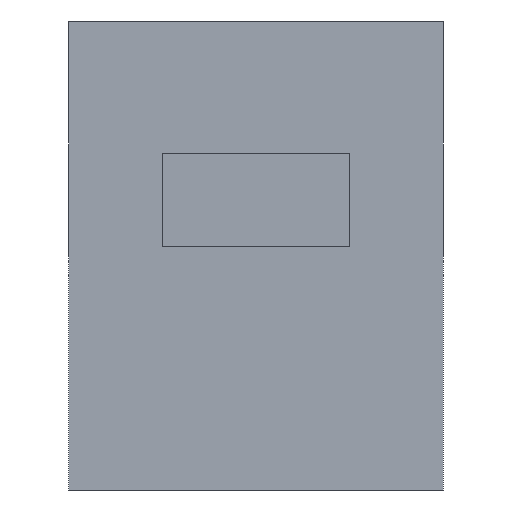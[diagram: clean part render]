
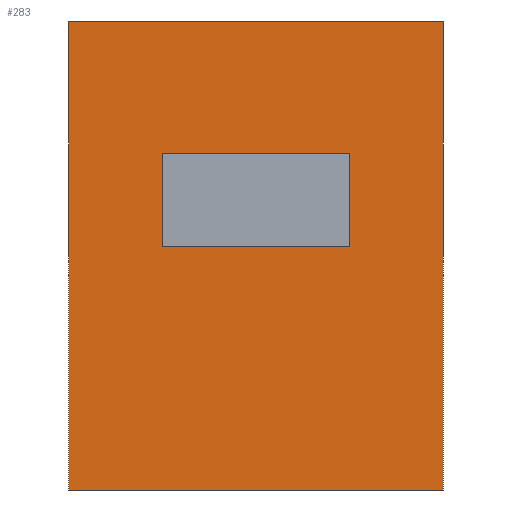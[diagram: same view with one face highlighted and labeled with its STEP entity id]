
A CAD part, front view. The second image highlights one B-rep face of the part: STEP entity #283.
In plain terms, the highlighted planar face has unit normal (0, -1, 0).
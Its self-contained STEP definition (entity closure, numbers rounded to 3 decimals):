
#20 = CARTESIAN_POINT ( 'NONE',  ( -5., -10., 5.5 ) ) ;
#52 = EDGE_CURVE ( 'NONE', #979, #78, #354, .T. ) ;
#78 = VERTEX_POINT ( 'NONE', #204 ) ;
#107 = LINE ( 'NONE', #20, #467 ) ;
#110 = ORIENTED_EDGE ( 'NONE', *, *, #829, .T. ) ;
#135 = DIRECTION ( 'NONE',  ( 1., 0., 0. ) ) ;
#147 = ORIENTED_EDGE ( 'NONE', *, *, #287, .F. ) ;
#174 = EDGE_CURVE ( 'NONE', #464, #682, #518, .T. ) ;
#183 = CARTESIAN_POINT ( 'NONE',  ( 5., -10., 0.5 ) ) ;
#189 = DIRECTION ( 'NONE',  ( 0., 0., -1. ) ) ;
#204 = CARTESIAN_POINT ( 'NONE',  ( 10., -10., -12.5 ) ) ;
#231 = CARTESIAN_POINT ( 'NONE',  ( -10., -10., -12.5 ) ) ;
#238 = DIRECTION ( 'NONE',  ( 0., 0., 1. ) ) ;
#264 = DIRECTION ( 'NONE',  ( 1., 0., 0. ) ) ;
#283 = ADVANCED_FACE ( 'NONE', ( #653, #749 ), #611, .F. ) ;
#287 = EDGE_CURVE ( 'NONE', #926, #787, #774, .T. ) ;
#300 = CARTESIAN_POINT ( 'NONE',  ( 10., -10., 12.5 ) ) ;
#314 = VECTOR ( 'NONE', #189, 1000. ) ;
#321 = EDGE_CURVE ( 'NONE', #682, #78, #432, .T. ) ;
#325 = CARTESIAN_POINT ( 'NONE',  ( -5., -10., 0.5 ) ) ;
#354 = LINE ( 'NONE', #231, #934 ) ;
#362 = DIRECTION ( 'NONE',  ( 0., 1., 0. ) ) ;
#389 = CARTESIAN_POINT ( 'NONE',  ( -10., -10., 12.5 ) ) ;
#393 = ORIENTED_EDGE ( 'NONE', *, *, #52, .T. ) ;
#394 = CARTESIAN_POINT ( 'NONE',  ( -10., -10., -12.5 ) ) ;
#432 = LINE ( 'NONE', #300, #314 ) ;
#459 = EDGE_CURVE ( 'NONE', #692, #835, #107, .T. ) ;
#460 = EDGE_LOOP ( 'NONE', ( #731, #654, #801, #147 ) ) ;
#464 = VERTEX_POINT ( 'NONE', #532 ) ;
#467 = VECTOR ( 'NONE', #922, 1000. ) ;
#476 = EDGE_CURVE ( 'NONE', #787, #692, #719, .T. ) ;
#491 = CARTESIAN_POINT ( 'NONE',  ( -10., -10., 12.5 ) ) ;
#509 = DIRECTION ( 'NONE',  ( -1., 0., 0. ) ) ;
#518 = LINE ( 'NONE', #389, #803 ) ;
#532 = CARTESIAN_POINT ( 'NONE',  ( -10., -10., 12.5 ) ) ;
#565 = EDGE_CURVE ( 'NONE', #835, #926, #945, .T. ) ;
#567 = VECTOR ( 'NONE', #583, 1000. ) ;
#577 = DIRECTION ( 'NONE',  ( 0., 0., -1. ) ) ;
#583 = DIRECTION ( 'NONE',  ( 0., 0., 1. ) ) ;
#607 = VECTOR ( 'NONE', #577, 1000. ) ;
#609 = CARTESIAN_POINT ( 'NONE',  ( -5., -10., 5.5 ) ) ;
#611 = PLANE ( 'NONE',  #680 ) ;
#625 = CARTESIAN_POINT ( 'NONE',  ( -5., -10., 5.5 ) ) ;
#653 = FACE_BOUND ( 'NONE', #460, .T. ) ;
#654 = ORIENTED_EDGE ( 'NONE', *, *, #459, .F. ) ;
#676 = CARTESIAN_POINT ( 'NONE',  ( -10., -10., 12.5 ) ) ;
#678 = EDGE_LOOP ( 'NONE', ( #393, #810, #826, #110 ) ) ;
#679 = CARTESIAN_POINT ( 'NONE',  ( 5., -10., 5.5 ) ) ;
#680 = AXIS2_PLACEMENT_3D ( 'NONE', #491, #362, #238 ) ;
#682 = VERTEX_POINT ( 'NONE', #885 ) ;
#692 = VERTEX_POINT ( 'NONE', #609 ) ;
#713 = VECTOR ( 'NONE', #509, 1000. ) ;
#719 = LINE ( 'NONE', #625, #713 ) ;
#731 = ORIENTED_EDGE ( 'NONE', *, *, #565, .F. ) ;
#749 = FACE_OUTER_BOUND ( 'NONE', #678, .T. ) ;
#759 = DIRECTION ( 'NONE',  ( 1., 0., 0. ) ) ;
#771 = LINE ( 'NONE', #676, #607 ) ;
#774 = LINE ( 'NONE', #679, #567 ) ;
#787 = VERTEX_POINT ( 'NONE', #862 ) ;
#801 = ORIENTED_EDGE ( 'NONE', *, *, #476, .F. ) ;
#803 = VECTOR ( 'NONE', #264, 1000. ) ;
#810 = ORIENTED_EDGE ( 'NONE', *, *, #321, .F. ) ;
#826 = ORIENTED_EDGE ( 'NONE', *, *, #174, .F. ) ;
#829 = EDGE_CURVE ( 'NONE', #464, #979, #771, .T. ) ;
#835 = VERTEX_POINT ( 'NONE', #325 ) ;
#853 = CARTESIAN_POINT ( 'NONE',  ( -5., -10., 0.5 ) ) ;
#862 = CARTESIAN_POINT ( 'NONE',  ( 5., -10., 5.5 ) ) ;
#885 = CARTESIAN_POINT ( 'NONE',  ( 10., -10., 12.5 ) ) ;
#922 = DIRECTION ( 'NONE',  ( 0., 0., -1. ) ) ;
#926 = VERTEX_POINT ( 'NONE', #183 ) ;
#934 = VECTOR ( 'NONE', #135, 1000. ) ;
#945 = LINE ( 'NONE', #853, #989 ) ;
#979 = VERTEX_POINT ( 'NONE', #394 ) ;
#989 = VECTOR ( 'NONE', #759, 1000. ) ;
